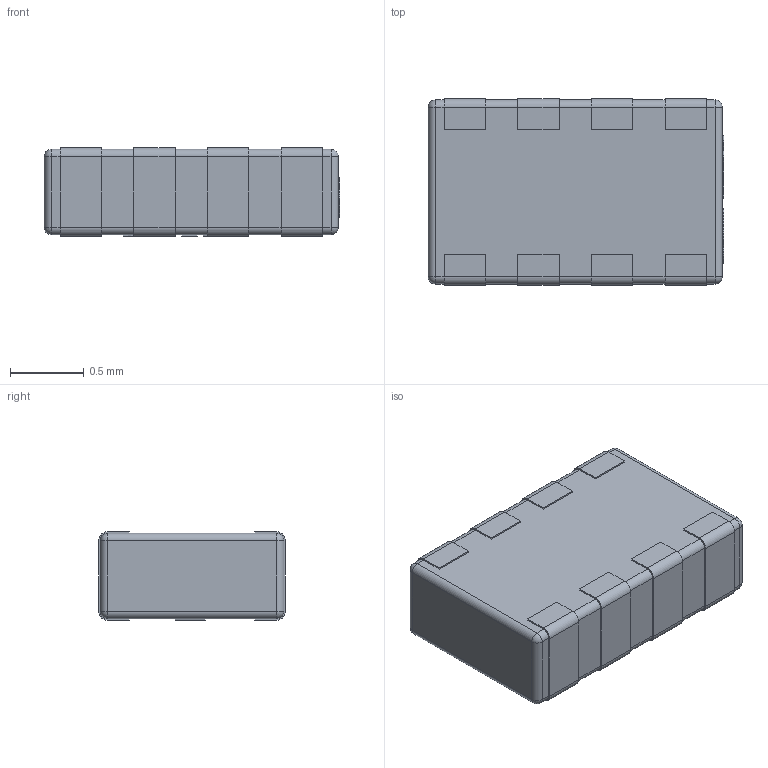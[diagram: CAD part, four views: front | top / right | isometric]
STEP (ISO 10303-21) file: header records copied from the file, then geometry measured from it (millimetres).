
FILE_DESCRIPTION (( 'STEP AP214' ), '1' );
FILE_NAME ('CAP-ARRAY-SMD_0508-8P-L2.1-W1.3-BL.step', '2022-07-01T06:14:53', ( '' ), ( '' ), 'SwSTEP 2.0', 'SolidWorks 2020', '' );
FILE_SCHEMA (( 'AUTOMOTIVE_DESIGN' ));
Length unit declared in the file: millimetre
Products named in the file (1): CAP-ARRAY-SMD_0508-8P-L2.1-W1.3-BL
Bounding box: 2.01 x 1.27 x 0.6 mm (x, y, z)
Volume: 1.5 mm3; surface area: 8.8 mm2
Topology: 1 solids, 1 shells, 404 faces, 1112 edges, 728 vertices
Faces by surface type: plane 240, bspline 112, cylinder 44, sphere 8
Entity records: 17912 total; most frequent: CARTESIAN_POINT 3985, ORIENTED_EDGE 2208, DIRECTION 1507, EDGE_CURVE 1104, VECTOR 745, LINE 745, VERTEX_POINT 728, EDGE_LOOP 430
